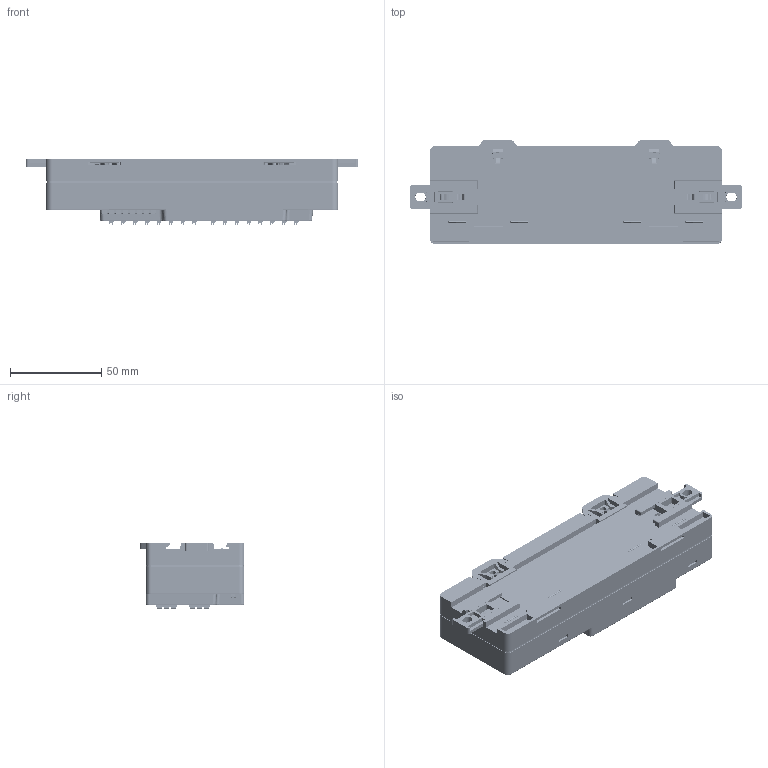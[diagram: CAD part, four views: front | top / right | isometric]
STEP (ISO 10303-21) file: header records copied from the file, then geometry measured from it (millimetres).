
FILE_DESCRIPTION((''),'2;1');
FILE_NAME('PUSHIN_NOLABEL_S','2026-04-02T17:46:43',('Administrator'),(''),'CREO PARAMETRIC BY PTC INC, 2022073','CREO PARAMETRIC BY PTC INC, 2022073','');
FILE_SCHEMA(('AUTOMOTIVE_DESIGN { 1 0 10303 214 1 1 1 1 }'));
Products named in the file (1): PUSHIN_NOLABEL_S
Bounding box: 182 x 57.35 x 35.9 mm (x, y, z)
Surface area: 134606.6 mm2 (no closed solid volume)
Topology: 0 solids, 375 shells, 9823 faces, 40118 edges, 29769 vertices
Faces by surface type: plane 6236, cylinder 2365, bspline 559, torus 281, cone 281, sphere 52, extrusion 49
Entity records: 534207 total; most frequent: CARTESIAN_POINT 152410, DIRECTION 64307, ORIENTED_EDGE 61893, EDGE_CURVE 39808, VERTEX_POINT 29641, VECTOR 29217, LINE 29168, AXIS2_PLACEMENT_3D 17545
